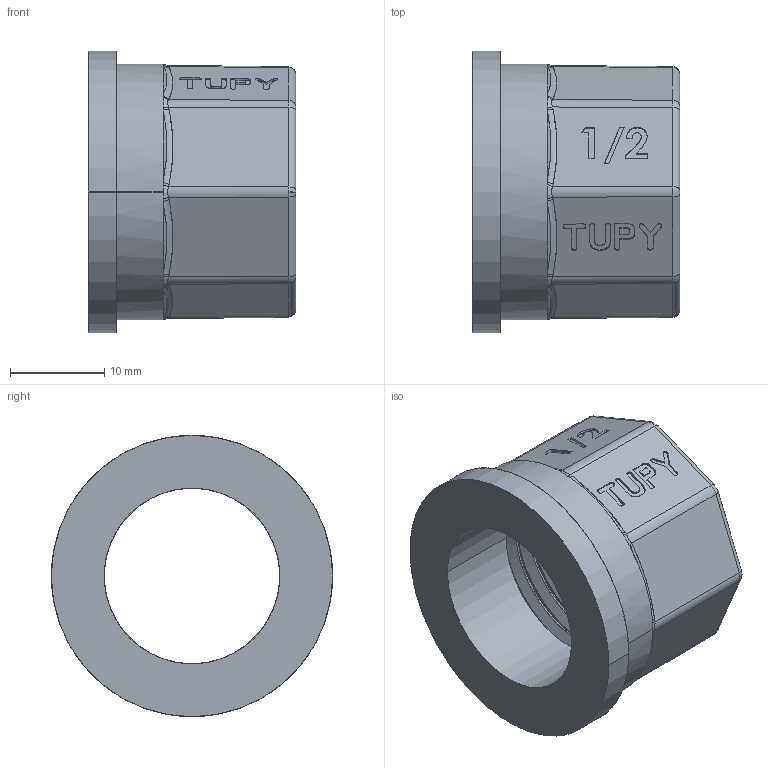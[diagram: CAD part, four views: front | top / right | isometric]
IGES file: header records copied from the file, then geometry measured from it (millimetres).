
Start section: SolidWorks IGES file using analytic representation for surfaces
Global section: file name: C:\Users\Joel Rosa\Desktop\Tubulação\12-83-OK\12-83-004.IGS; native system: SolidWorks 2011; preprocessor: SolidWorks 2011; author: Joel Rosa; date: 131216.233053; units: millimetre
Bounding box: 22 x 29.8 x 29.8 mm (x, y, z)
Surface area: 4557.7 mm2 (no closed solid volume)
Topology: 0 solids, 0 shells, 246 faces, 1993 edges, 1993 vertices
Faces by surface type: bspline 185, revolution 61
